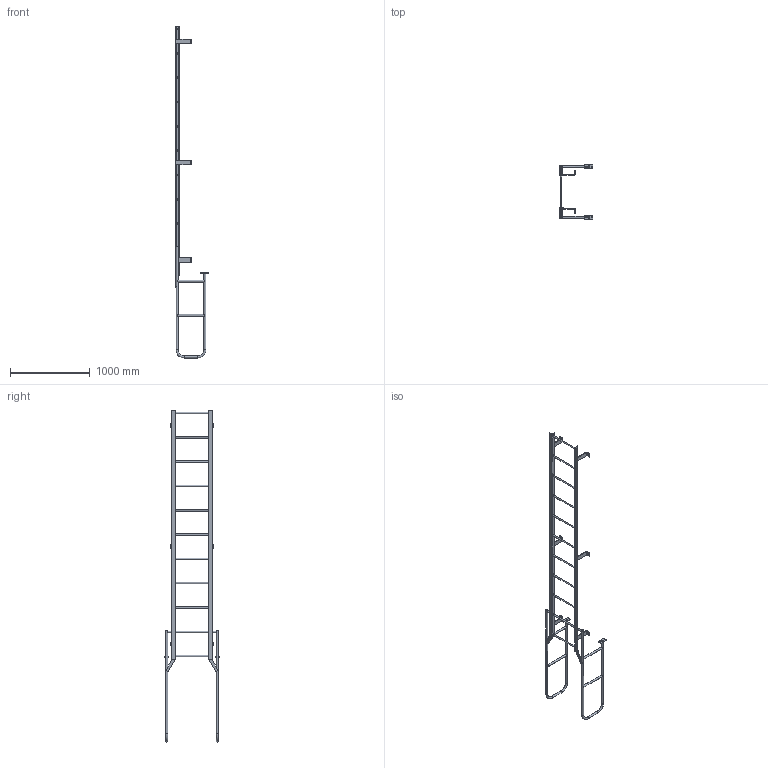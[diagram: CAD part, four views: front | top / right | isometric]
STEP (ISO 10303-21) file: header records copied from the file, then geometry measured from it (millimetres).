
FILE_DESCRIPTION(/* description */ (''),/* implementation_level */ '2;1');
FILE_NAME(/* name */ 'P:\MIKEL & KAREN\3570229 F11W SIMPLIFIED PART.stp',/* time_stamp */ '2018-07-02T15:46:43-04:00',/* author */ ('stephanie'),/* organization */ (''),/* preprocessor_version */ 'ST-DEVELOPER v16.1',/* originating_system */ 'Autodesk Inventor 2016',/* authorisation */ '');
FILE_SCHEMA (('AUTOMOTIVE_DESIGN { 1 0 10303 214 3 1 1 }'));
Length unit declared in the file: centimetre
Products named in the file (1): 3570229 F11W SIMPLIFIED PART
Bounding box: 425.58 x 685.8 x 4162.43 mm (x, y, z)
Volume: 6572026.9 mm3; surface area: 2742618.6 mm2
Topology: 19 solids, 19 shells, 277 faces, 713 edges, 468 vertices
Faces by surface type: plane 145, cylinder 124, torus 8
Full cylindrical faces by diameter (mm): 10.319 x4, 14.287 x6, 19.05 x11, 22.098 x10, 22.225 x22, 25.4 x10
Entity records: 8643 total; most frequent: CARTESIAN_POINT 1722, DIRECTION 1412, ORIENTED_EDGE 1228, EDGE_CURVE 608, AXIS2_PLACEMENT_3D 542, VERTEX_POINT 436, EDGE_LOOP 420, LINE 328
